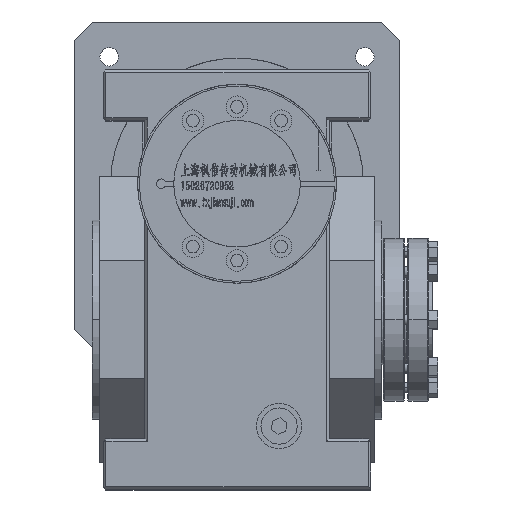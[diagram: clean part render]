
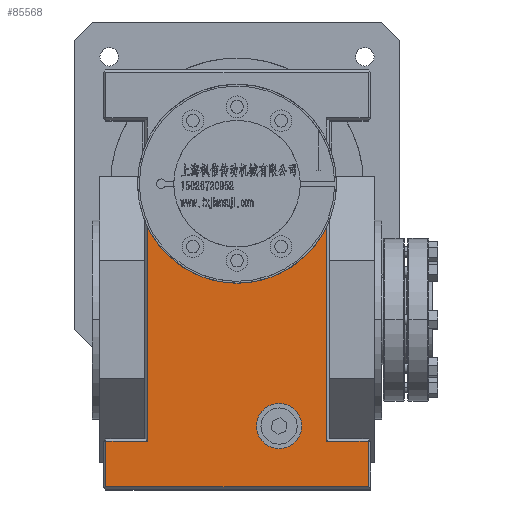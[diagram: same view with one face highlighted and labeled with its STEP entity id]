
A CAD part, top view. The second image highlights one B-rep face of the part: STEP entity #85568.
In plain terms, the highlighted planar face has unit normal (0, 0, 1).
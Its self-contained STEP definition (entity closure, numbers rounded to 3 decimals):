
#1829 = CARTESIAN_POINT ( 'NONE',  ( -72.5, 138., 104. ) ) ;
#2871 = ORIENTED_EDGE ( 'NONE', *, *, #14709, .T. ) ;
#3711 = DIRECTION ( 'NONE',  ( 1., 0., 0. ) ) ;
#5543 = ORIENTED_EDGE ( 'NONE', *, *, #11526, .F. ) ;
#8819 = PLANE ( 'NONE',  #72596 ) ;
#10136 = LINE ( 'NONE', #1829, #44925 ) ;
#11450 = EDGE_LOOP ( 'NONE', ( #114260, #53352, #30529, #52294, #5543, #66502, #89605, #2871 ) ) ;
#11526 = EDGE_CURVE ( 'NONE', #45032, #33965, #50864, .T. ) ;
#13218 = EDGE_CURVE ( 'NONE', #57904, #59787, #114022, .T. ) ;
#14677 = CIRCLE ( 'NONE', #52504, 12.5 ) ;
#14709 = EDGE_CURVE ( 'NONE', #59787, #105030, #10136, .T. ) ;
#16609 = CARTESIAN_POINT ( 'NONE',  ( -49.5, 51.026, 104. ) ) ;
#22944 = AXIS2_PLACEMENT_3D ( 'NONE', #101325, #91864, #36732 ) ;
#29260 = DIRECTION ( 'NONE',  ( 0., -1., 0. ) ) ;
#29486 = CARTESIAN_POINT ( 'NONE',  ( 74., 138., 104. ) ) ;
#30529 = ORIENTED_EDGE ( 'NONE', *, *, #68246, .T. ) ;
#33126 = EDGE_LOOP ( 'NONE', ( #72237, #106662 ) ) ;
#33965 = VERTEX_POINT ( 'NONE', #73069 ) ;
#34810 = VECTOR ( 'NONE', #37193, 1000. ) ;
#35664 = AXIS2_PLACEMENT_3D ( 'NONE', #77441, #61415, #70296 ) ;
#36732 = DIRECTION ( 'NONE',  ( 1., 0., 0. ) ) ;
#37193 = DIRECTION ( 'NONE',  ( -1., 0., 0. ) ) ;
#37359 = DIRECTION ( 'NONE',  ( 0., -1., 0. ) ) ;
#37789 = EDGE_CURVE ( 'NONE', #105030, #78667, #57623, .T. ) ;
#38633 = EDGE_CURVE ( 'NONE', #84536, #33965, #99163, .T. ) ;
#39013 = VERTEX_POINT ( 'NONE', #46063 ) ;
#40254 = EDGE_CURVE ( 'NONE', #45032, #57904, #74326, .T. ) ;
#41540 = DIRECTION ( 'NONE',  ( 0., 0., 1. ) ) ;
#42369 = CARTESIAN_POINT ( 'NONE',  ( -49.5, -67.5, 104. ) ) ;
#44925 = VECTOR ( 'NONE', #37359, 1000. ) ;
#45032 = VERTEX_POINT ( 'NONE', #16609 ) ;
#45274 = DIRECTION ( 'NONE',  ( 0., 1., 0. ) ) ;
#46063 = CARTESIAN_POINT ( 'NONE',  ( 35.762, -59., 104. ) ) ;
#50864 = CIRCLE ( 'NONE', #35664, 55. ) ;
#52294 = ORIENTED_EDGE ( 'NONE', *, *, #38633, .T. ) ;
#52504 = AXIS2_PLACEMENT_3D ( 'NONE', #114996, #41540, #69937 ) ;
#53352 = ORIENTED_EDGE ( 'NONE', *, *, #116270, .T. ) ;
#54140 = VECTOR ( 'NONE', #76680, 1000. ) ;
#55007 = CARTESIAN_POINT ( 'NONE',  ( 74., -67.5, 104. ) ) ;
#57623 = LINE ( 'NONE', #113902, #111108 ) ;
#57904 = VERTEX_POINT ( 'NONE', #42369 ) ;
#58329 = CARTESIAN_POINT ( 'NONE',  ( -74., -67.5, 104. ) ) ;
#59787 = VERTEX_POINT ( 'NONE', #81742 ) ;
#60887 = EDGE_CURVE ( 'NONE', #39013, #90900, #75960, .T. ) ;
#61415 = DIRECTION ( 'NONE',  ( 0., 0., 1. ) ) ;
#62451 = CARTESIAN_POINT ( 'NONE',  ( 49.5, 54.409, 104. ) ) ;
#66502 = ORIENTED_EDGE ( 'NONE', *, *, #40254, .T. ) ;
#68246 = EDGE_CURVE ( 'NONE', #105376, #84536, #108933, .T. ) ;
#68347 = VECTOR ( 'NONE', #103686, 1000. ) ;
#69937 = DIRECTION ( 'NONE',  ( 1., 0., 0. ) ) ;
#70296 = DIRECTION ( 'NONE',  ( 0., 1., 0. ) ) ;
#72237 = ORIENTED_EDGE ( 'NONE', *, *, #60887, .F. ) ;
#72596 = AXIS2_PLACEMENT_3D ( 'NONE', #29486, #101798, #73965 ) ;
#73069 = CARTESIAN_POINT ( 'NONE',  ( 49.5, 51.026, 104. ) ) ;
#73965 = DIRECTION ( 'NONE',  ( -1., 0., 0. ) ) ;
#74326 = LINE ( 'NONE', #110493, #109435 ) ;
#75960 = CIRCLE ( 'NONE', #22944, 12.5 ) ;
#76268 = CARTESIAN_POINT ( 'NONE',  ( 72.5, -92.5, 104. ) ) ;
#76418 = LINE ( 'NONE', #104864, #68347 ) ;
#76680 = DIRECTION ( 'NONE',  ( -1., 0., 0. ) ) ;
#77441 = CARTESIAN_POINT ( 'NONE',  ( 0., 75., 104. ) ) ;
#78667 = VERTEX_POINT ( 'NONE', #76268 ) ;
#80772 = CARTESIAN_POINT ( 'NONE',  ( -72.5, -92.5, 104. ) ) ;
#81742 = CARTESIAN_POINT ( 'NONE',  ( -72.5, -67.5, 104. ) ) ;
#84160 = CARTESIAN_POINT ( 'NONE',  ( 10.762, -59., 104. ) ) ;
#84536 = VERTEX_POINT ( 'NONE', #89873 ) ;
#85568 = ADVANCED_FACE ( 'NONE', ( #110717, #100645 ), #8819, .F. ) ;
#87605 = CARTESIAN_POINT ( 'NONE',  ( 72.5, -67.5, 104. ) ) ;
#89605 = ORIENTED_EDGE ( 'NONE', *, *, #13218, .T. ) ;
#89873 = CARTESIAN_POINT ( 'NONE',  ( 49.5, -67.5, 104. ) ) ;
#90900 = VERTEX_POINT ( 'NONE', #84160 ) ;
#91864 = DIRECTION ( 'NONE',  ( 0., 0., 1. ) ) ;
#96756 = EDGE_CURVE ( 'NONE', #90900, #39013, #14677, .T. ) ;
#99163 = LINE ( 'NONE', #62451, #113044 ) ;
#100645 = FACE_OUTER_BOUND ( 'NONE', #11450, .T. ) ;
#101325 = CARTESIAN_POINT ( 'NONE',  ( 23.262, -59., 104. ) ) ;
#101798 = DIRECTION ( 'NONE',  ( 0., 0., -1. ) ) ;
#103686 = DIRECTION ( 'NONE',  ( 0., 1., 0. ) ) ;
#104864 = CARTESIAN_POINT ( 'NONE',  ( 72.5, -66., 104. ) ) ;
#105030 = VERTEX_POINT ( 'NONE', #80772 ) ;
#105376 = VERTEX_POINT ( 'NONE', #87605 ) ;
#106662 = ORIENTED_EDGE ( 'NONE', *, *, #96756, .F. ) ;
#108933 = LINE ( 'NONE', #55007, #34810 ) ;
#109435 = VECTOR ( 'NONE', #29260, 1000. ) ;
#110493 = CARTESIAN_POINT ( 'NONE',  ( -49.5, -66., 104. ) ) ;
#110717 = FACE_BOUND ( 'NONE', #33126, .T. ) ;
#111108 = VECTOR ( 'NONE', #3711, 1000. ) ;
#113044 = VECTOR ( 'NONE', #45274, 1000. ) ;
#113902 = CARTESIAN_POINT ( 'NONE',  ( 74., -92.5, 104. ) ) ;
#114022 = LINE ( 'NONE', #58329, #54140 ) ;
#114260 = ORIENTED_EDGE ( 'NONE', *, *, #37789, .T. ) ;
#114996 = CARTESIAN_POINT ( 'NONE',  ( 23.262, -59., 104. ) ) ;
#116270 = EDGE_CURVE ( 'NONE', #78667, #105376, #76418, .T. ) ;
